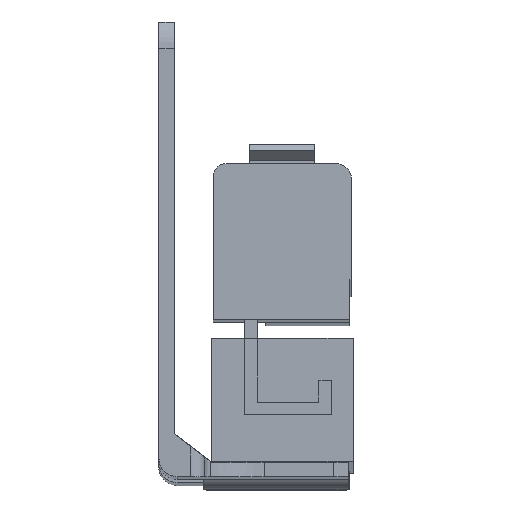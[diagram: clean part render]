
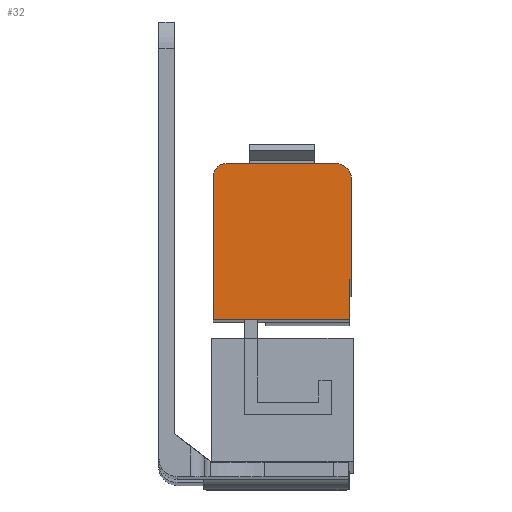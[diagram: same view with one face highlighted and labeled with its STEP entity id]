
A CAD part, front view. The second image highlights one B-rep face of the part: STEP entity #32.
In plain terms, the highlighted planar face has unit normal (0, -1, 0.007).
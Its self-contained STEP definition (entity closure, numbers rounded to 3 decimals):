
#32 = ADVANCED_FACE ( 'NONE', ( #3540 ), #4548, .T. ) ;
#275 = AXIS2_PLACEMENT_3D ( 'NONE', #4549, #4550, #4551 ) ;
#480 = AXIS2_PLACEMENT_3D ( 'NONE', #1395, #1396, #1397 ) ;
#481 = AXIS2_PLACEMENT_3D ( 'NONE', #1400, #1401, #1402 ) ;
#1381 = CARTESIAN_POINT ( 'NONE',  ( 9.25, -21.632, -4.553 ) ) ;
#1382 = DIRECTION ( 'NONE',  ( -1., 0., 0. ) ) ;
#1391 = CARTESIAN_POINT ( 'NONE',  ( 26.5, -21.646, -6.603 ) ) ;
#1392 = DIRECTION ( 'NONE',  ( 0., 0.007, 1. ) ) ;
#1395 = CARTESIAN_POINT ( 'NONE',  ( 24.45, -21.646, -6.603 ) ) ;
#1396 = DIRECTION ( 'NONE',  ( 0., -1., 0.007 ) ) ;
#1397 = DIRECTION ( 'NONE',  ( 0., 0.007, 1. ) ) ;
#1400 = CARTESIAN_POINT ( 'NONE',  ( 9.25, -21.644, -6.303 ) ) ;
#1401 = DIRECTION ( 'NONE',  ( 0., -1., 0.007 ) ) ;
#1402 = DIRECTION ( 'NONE',  ( 0., -0.007, -1. ) ) ;
#1409 = CARTESIAN_POINT ( 'NONE',  ( 7.5, -21.644, -6.303 ) ) ;
#1410 = DIRECTION ( 'NONE',  ( 0., -0.007, -1. ) ) ;
#1411 = CARTESIAN_POINT ( 'NONE',  ( 7.5, -21.744, -20.552 ) ) ;
#1412 = DIRECTION ( 'NONE',  ( 1., 0., 0. ) ) ;
#1417 = CARTESIAN_POINT ( 'NONE',  ( 26.25, -21.782, -26.052 ) ) ;
#1418 = DIRECTION ( 'NONE',  ( 1., 0., 0. ) ) ;
#1419 = CARTESIAN_POINT ( 'NONE',  ( 26.25, -21.782, -26.052 ) ) ;
#1420 = DIRECTION ( 'NONE',  ( 0., 0.007, 1. ) ) ;
#1765 = CARTESIAN_POINT ( 'NONE',  ( 26.25, -21.744, -20.552 ) ) ;
#1776 = CARTESIAN_POINT ( 'NONE',  ( 7.5, -21.782, -26.052 ) ) ;
#1787 = CARTESIAN_POINT ( 'NONE',  ( 24.45, -21.632, -4.553 ) ) ;
#1802 = CARTESIAN_POINT ( 'NONE',  ( 9.25, -21.632, -4.553 ) ) ;
#1805 = CARTESIAN_POINT ( 'NONE',  ( 7.5, -21.644, -6.303 ) ) ;
#1806 = CARTESIAN_POINT ( 'NONE',  ( 26.5, -21.744, -20.552 ) ) ;
#1807 = CARTESIAN_POINT ( 'NONE',  ( 26.5, -21.646, -6.603 ) ) ;
#2201 = LINE ( 'NONE', #1381, #2202 ) ;
#2202 = VECTOR ( 'NONE', #1382, 1000. ) ;
#2211 = LINE ( 'NONE', #1391, #2212 ) ;
#2212 = VECTOR ( 'NONE', #1392, 1000. ) ;
#2216 = CIRCLE ( 'NONE', #480, 2.05 ) ;
#2219 = CIRCLE ( 'NONE', #481, 1.75 ) ;
#2225 = LINE ( 'NONE', #1409, #2226 ) ;
#2226 = VECTOR ( 'NONE', #1410, 1000. ) ;
#2227 = LINE ( 'NONE', #1411, #2228 ) ;
#2228 = VECTOR ( 'NONE', #1412, 1000. ) ;
#2233 = LINE ( 'NONE', #1417, #2234 ) ;
#2234 = VECTOR ( 'NONE', #1418, 1000. ) ;
#2235 = LINE ( 'NONE', #1419, #2236 ) ;
#2236 = VECTOR ( 'NONE', #1420, 1000. ) ;
#2432 = CARTESIAN_POINT ( 'NONE',  ( 26.25, -21.782, -26.052 ) ) ;
#2644 = ORIENTED_EDGE ( 'NONE', *, *, #4067, .T. ) ;
#2645 = ORIENTED_EDGE ( 'NONE', *, *, #4062, .T. ) ;
#2646 = ORIENTED_EDGE ( 'NONE', *, *, #4071, .T. ) ;
#2647 = ORIENTED_EDGE ( 'NONE', *, *, #4075, .T. ) ;
#2648 = ORIENTED_EDGE ( 'NONE', *, *, #4076, .T. ) ;
#2666 = ORIENTED_EDGE ( 'NONE', *, *, #4069, .T. ) ;
#2670 = ORIENTED_EDGE ( 'NONE', *, *, #4080, .T. ) ;
#2671 = ORIENTED_EDGE ( 'NONE', *, *, #4079, .T. ) ;
#3489 = EDGE_LOOP ( 'NONE', ( #2644, #2666, #2645, #2646, #2647, #2671, #2670, #2648 ) ) ;
#3540 = FACE_OUTER_BOUND ( 'NONE', #3489, .T. ) ;
#4062 = EDGE_CURVE ( 'NONE', #4326, #4341, #2201, .T. ) ;
#4067 = EDGE_CURVE ( 'NONE', #4345, #4346, #2211, .T. ) ;
#4069 = EDGE_CURVE ( 'NONE', #4346, #4326, #2216, .T. ) ;
#4071 = EDGE_CURVE ( 'NONE', #4341, #4344, #2219, .T. ) ;
#4075 = EDGE_CURVE ( 'NONE', #4344, #4315, #2225, .T. ) ;
#4076 = EDGE_CURVE ( 'NONE', #4304, #4345, #2227, .T. ) ;
#4079 = EDGE_CURVE ( 'NONE', #4315, #4367, #2233, .T. ) ;
#4080 = EDGE_CURVE ( 'NONE', #4367, #4304, #2235, .T. ) ;
#4304 = VERTEX_POINT ( 'NONE', #1765 ) ;
#4315 = VERTEX_POINT ( 'NONE', #1776 ) ;
#4326 = VERTEX_POINT ( 'NONE', #1787 ) ;
#4341 = VERTEX_POINT ( 'NONE', #1802 ) ;
#4344 = VERTEX_POINT ( 'NONE', #1805 ) ;
#4345 = VERTEX_POINT ( 'NONE', #1806 ) ;
#4346 = VERTEX_POINT ( 'NONE', #1807 ) ;
#4367 = VERTEX_POINT ( 'NONE', #2432 ) ;
#4548 = PLANE ( 'NONE',  #275 ) ;
#4549 = CARTESIAN_POINT ( 'NONE',  ( 9.25, -21.644, -6.303 ) ) ;
#4550 = DIRECTION ( 'NONE',  ( 0., -1., 0.007 ) ) ;
#4551 = DIRECTION ( 'NONE',  ( 0., -0.007, -1. ) ) ;
